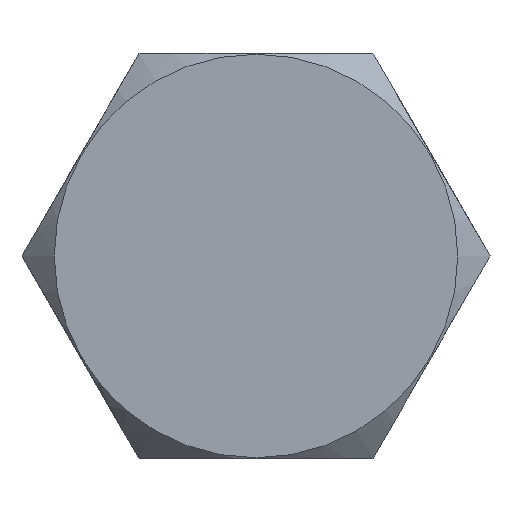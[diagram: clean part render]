
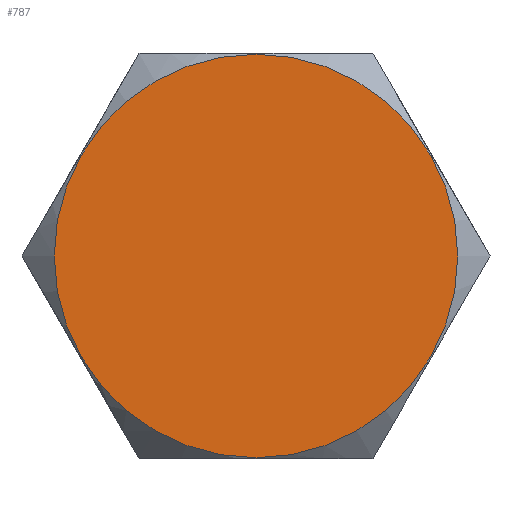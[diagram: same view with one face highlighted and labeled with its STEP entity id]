
A CAD part, front view. The second image highlights one B-rep face of the part: STEP entity #787.
In plain terms, the highlighted planar face has unit normal (0, -1, 0).
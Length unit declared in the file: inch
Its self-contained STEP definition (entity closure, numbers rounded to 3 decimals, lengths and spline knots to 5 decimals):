
#61=PLANE('',#895);
#118=FACE_OUTER_BOUND('',#169,.T.);
#169=EDGE_LOOP('',(#642));
#286=CIRCLE('',#894,0.56);
#368=VERTEX_POINT('',#1465);
#467=EDGE_CURVE('',#368,#368,#286,.T.);
#642=ORIENTED_EDGE('',*,*,#467,.F.);
#787=ADVANCED_FACE('',(#118),#61,.T.);
#894=AXIS2_PLACEMENT_3D('',#1466,#1078,#1079);
#895=AXIS2_PLACEMENT_3D('',#1468,#1081,#1082);
#1078=DIRECTION('center_axis',(0.,1.,0.));
#1079=DIRECTION('ref_axis',(0.,0.,1.));
#1081=DIRECTION('center_axis',(0.,-1.,0.));
#1082=DIRECTION('ref_axis',(0.,0.,-1.));
#1465=CARTESIAN_POINT('',(0.,0.,-0.56));
#1466=CARTESIAN_POINT('Origin',(0.,0.,0.));
#1468=CARTESIAN_POINT('Origin',(0.,0.,0.));
